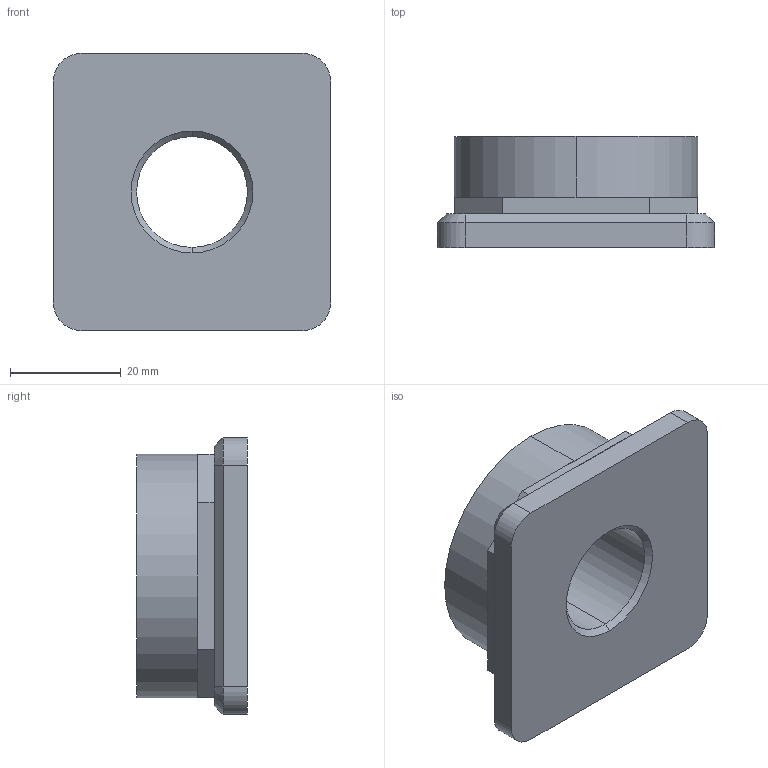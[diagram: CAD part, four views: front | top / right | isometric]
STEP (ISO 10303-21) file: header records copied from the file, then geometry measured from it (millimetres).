
FILE_DESCRIPTION (( 'STEP AP203' ), '1' );
FILE_NAME ('34670.W0054.step', '2017-06-26T08:14:37', ( 'User' ), ( '' ), 'SwSTEP 2.0', 'SolidWorks 2009', '' );
FILE_SCHEMA (( 'CONFIG_CONTROL_DESIGN' ));
Length unit declared in the file: millimetre
Products named in the file (1): 34670.W0054
Bounding box: 50 x 20 x 50 mm (x, y, z)
Volume: 30351.6 mm3; surface area: 8466.8 mm2
Topology: 1 solids, 1 shells, 39 faces, 90 edges, 54 vertices
Faces by surface type: plane 23, cone 8, cylinder 8
Entity records: 1167 total; most frequent: DIRECTION 196, CARTESIAN_POINT 184, ORIENTED_EDGE 180, EDGE_CURVE 90, AXIS2_PLACEMENT_3D 66, LINE 64, VECTOR 64, VERTEX_POINT 54
